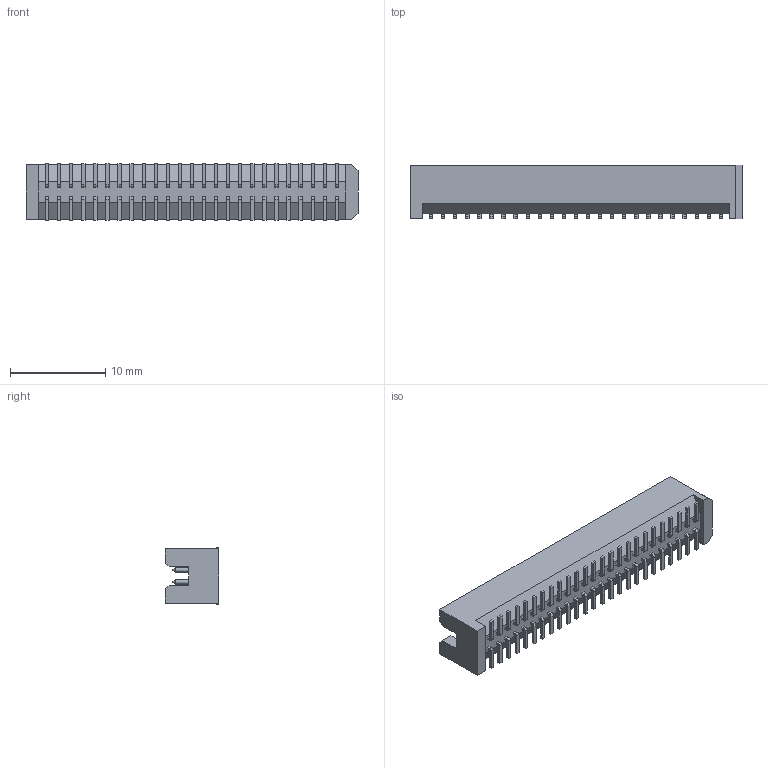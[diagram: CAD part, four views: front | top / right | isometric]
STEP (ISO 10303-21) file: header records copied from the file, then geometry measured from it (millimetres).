
FILE_DESCRIPTION (( 'STEP AP203' ), '1' );
FILE_NAME ('TFM-125-02-X-D.step', '2013-04-23T20:57:44', ( 'Test' ), ( 'SAMTEC' ), 'SwSTEP 2.0', 'SolidWorks 2012', '' );
FILE_SCHEMA (( 'CONFIG_CONTROL_DESIGN' ));
Length unit declared in the file: inch
Products named in the file (1): TFM-125-02-X-D
Bounding box: 34.92 x 5.59 x 5.97 mm (x, y, z)
Volume: 514.8 mm3; surface area: 1449 mm2
Topology: 1 solids, 1 shells, 738 faces, 1801 edges, 1165 vertices
Faces by surface type: plane 438, cylinder 200, cone 100
Entity records: 21628 total; most frequent: DIRECTION 3779, CARTESIAN_POINT 3705, ORIENTED_EDGE 3602, EDGE_CURVE 1801, VECTOR 1301, LINE 1301, AXIS2_PLACEMENT_3D 1239, VERTEX_POINT 1165
